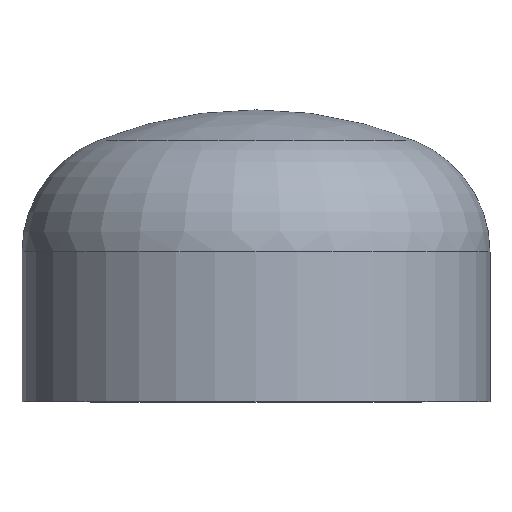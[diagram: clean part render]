
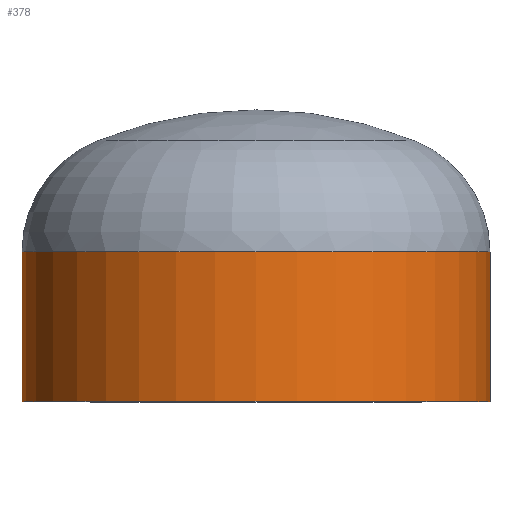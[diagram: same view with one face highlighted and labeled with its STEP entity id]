
A CAD part, top view. The second image highlights one B-rep face of the part: STEP entity #378.
In plain terms, the highlighted cylindrical face has radius 203.2 mm (diameter 406.4 mm), a partial arc.
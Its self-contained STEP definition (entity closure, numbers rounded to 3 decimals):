
#12 = DIRECTION ( 'NONE',  ( 0., -1., 0. ) ) ;
#37 = VERTEX_POINT ( 'NONE', #237 ) ;
#50 = ORIENTED_EDGE ( 'NONE', *, *, #372, .F. ) ;
#59 = ORIENTED_EDGE ( 'NONE', *, *, #359, .T. ) ;
#62 = VERTEX_POINT ( 'NONE', #271 ) ;
#91 = VERTEX_POINT ( 'NONE', #230 ) ;
#100 = VERTEX_POINT ( 'NONE', #216 ) ;
#101 = EDGE_LOOP ( 'NONE', ( #110, #59, #120, #50 ) ) ;
#110 = ORIENTED_EDGE ( 'NONE', *, *, #148, .T. ) ;
#120 = ORIENTED_EDGE ( 'NONE', *, *, #356, .F. ) ;
#121 = AXIS2_PLACEMENT_3D ( 'NONE', #332, #269, #358 ) ;
#123 = LINE ( 'NONE', #152, #197 ) ;
#133 = CARTESIAN_POINT ( 'NONE',  ( 0., 0., 0. ) ) ;
#148 = EDGE_CURVE ( 'NONE', #62, #100, #383, .T. ) ;
#152 = CARTESIAN_POINT ( 'NONE',  ( 203.2, 0., 0. ) ) ;
#172 = DIRECTION ( 'NONE',  ( 0., -1., 0. ) ) ;
#188 = CYLINDRICAL_SURFACE ( 'NONE', #360, 203.2 ) ;
#197 = VECTOR ( 'NONE', #172, 1000. ) ;
#198 = DIRECTION ( 'NONE',  ( 1., 0., 0. ) ) ;
#205 = FACE_OUTER_BOUND ( 'NONE', #101, .T. ) ;
#216 = CARTESIAN_POINT ( 'NONE',  ( -203.2, 130., 0. ) ) ;
#230 = CARTESIAN_POINT ( 'NONE',  ( -203.2, 0., 0. ) ) ;
#232 = DIRECTION ( 'NONE',  ( 1., 0., 0. ) ) ;
#237 = CARTESIAN_POINT ( 'NONE',  ( 203.2, 0., 0. ) ) ;
#259 = CARTESIAN_POINT ( 'NONE',  ( -203.2, 0., 0. ) ) ;
#269 = DIRECTION ( 'NONE',  ( 0., -1., 0. ) ) ;
#271 = CARTESIAN_POINT ( 'NONE',  ( 203.2, 130., 0. ) ) ;
#284 = CIRCLE ( 'NONE', #286, 203.2 ) ;
#286 = AXIS2_PLACEMENT_3D ( 'NONE', #133, #390, #198 ) ;
#326 = VECTOR ( 'NONE', #12, 1000. ) ;
#332 = CARTESIAN_POINT ( 'NONE',  ( 0., 130., 0. ) ) ;
#346 = DIRECTION ( 'NONE',  ( 0., -1., 0. ) ) ;
#356 = EDGE_CURVE ( 'NONE', #37, #91, #284, .T. ) ;
#358 = DIRECTION ( 'NONE',  ( 1., 0., 0. ) ) ;
#359 = EDGE_CURVE ( 'NONE', #100, #91, #387, .T. ) ;
#360 = AXIS2_PLACEMENT_3D ( 'NONE', #405, #346, #232 ) ;
#372 = EDGE_CURVE ( 'NONE', #62, #37, #123, .T. ) ;
#378 = ADVANCED_FACE ( 'NONE', ( #205 ), #188, .T. ) ;
#383 = CIRCLE ( 'NONE', #121, 203.2 ) ;
#387 = LINE ( 'NONE', #259, #326 ) ;
#390 = DIRECTION ( 'NONE',  ( 0., -1., 0. ) ) ;
#405 = CARTESIAN_POINT ( 'NONE',  ( 0., 0., 0. ) ) ;
